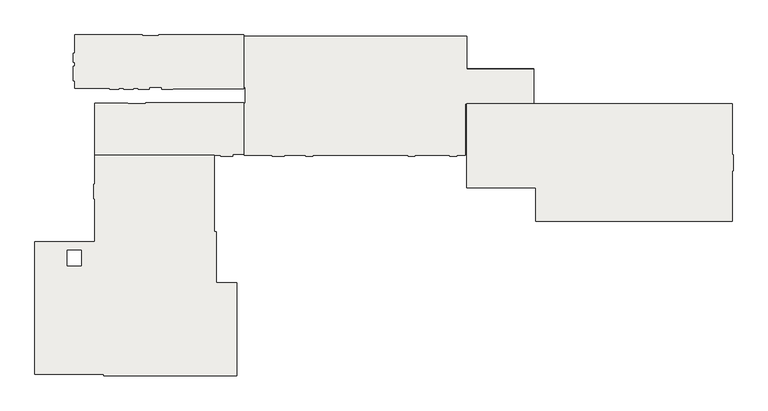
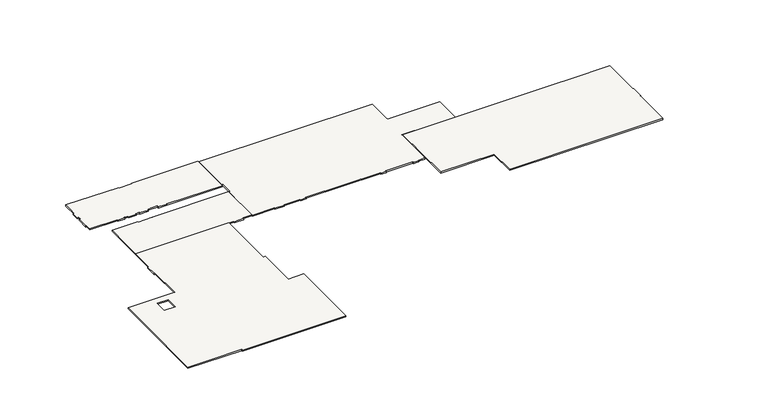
"""IFC4 building model written with IfcOpenShell, lengths in millimetres: slab geometry, Sol-02 - dalle béton 20cm + chape 6cm."""

from ifc_helpers import new_model, si_unit, frame, origin, place, context, project, spatial, polyline, outline, extrude, faceted_brep, source, transform, mapped, element, save


def slab_c3029f9a(model_context):
    return source(origin(), model_context, "Body", "SolidModel", [
        extrude(outline(polyline([(-36679.9987968, -10886.899999), (-15200.4988284, -10886.899999), (-12525.4988284, -10886.899999), (-4099.9988284, -10886.899999), (-4099.9988284, -19288.4656731), (-3949.9988284, -19288.4656731), (-3949.9988284, -21888.4656731), (-4099.9988284, -21888.4656731), (-4099.9988284, -30163.1349959), (-36366.0430891, -30163.1349959), (-36366.0430891, -24638.4656731), (-47679.998776, -24638.4656731), (-47679.998776, -10886.899999), (-36679.9987968, -10886.899999)])), frame((0.0, 0.0, -260.0), z_axis=(0.0, 0.0, 1.0), x_axis=(1.0, 0.0, 0.0)), (0.0, 0.0, 1.0), 260.0),
        extrude(outline(polyline([(-85489.873809, -49025.0173441), (-85489.873809, -55565.0173441), (-107328.1674613, -55565.0173441), (-107328.1674613, -55325.0173441), (-118643.5057462, -55325.0173441), (-118643.5057462, -33525.2180652), (-108816.1304765, -33525.2180652), (-108816.1304765, -26484.6903364), (-109016.1304765, -26484.6903364), (-109016.1304765, -24125.2903364), (-108816.1304765, -24125.2903364), (-108816.1304765, -19313.8903364), (-89219.3218006, -19313.8903364), (-89219.3218006, -31910.7903364), (-88819.3218006, -31910.7903364), (-88819.3218006, -40237.6903364), (-85489.873809, -40237.6903364), (-85489.873809, -49025.0173441)]), holes=[polyline([(-111021.8280797, -34911.0966115), (-113321.8280797, -34911.0966115), (-113321.8280797, -37514.1966115), (-111021.8280797, -37514.1966115), (-111021.8280797, -34911.0966115)])]), frame((0.0, 0.0, -260.0), z_axis=(0.0, 0.0, 1.0), x_axis=(1.0, 0.0, 0.0)), (0.0, 0.0, 1.0), 260.0),
        extrude(outline(polyline([(-84334.9987767, -8440.4850099), (-96024.9987767, -8440.4850099), (-96024.9987767, -8488.4850099), (-97824.9987767, -8488.4850099), (-97824.9987767, -8160.4850099), (-99886.6169684, -8160.4850099), (-99886.6169684, -8500.4850099), (-101686.6169684, -8500.4850099), (-101686.6169684, -8287.3850099), (-102505.8078725, -8287.3850099), (-102505.8078725, -8500.4850099), (-104015.8078725, -8500.4850099), (-104015.8078725, -8287.3850099), (-104834.9987767, -8287.3850099), (-104834.9987767, -8500.4850099), (-106344.9987767, -8500.4850099), (-106344.9987767, -8287.3850099), (-112106.6169684, -8287.3850099), (-112106.6169684, -7131.9), (-112306.6169684, -7131.9), (-112306.6169684, -4701.9), (-112106.6169684, -4701.9), (-112106.6169684, -4087.1425049), (-112306.6169684, -4087.1425049), (-112306.6169684, -2577.1425049), (-112106.6169684, -2577.1425049), (-112106.6169684, 438.5), (-101037.4987767, 438.5), (-101037.4987767, 262.0), (-98302.4987767, 262.0), (-98302.4987767, 438.5), (-84334.9987767, 438.5), (-84334.9987767, -8440.4850099)])), frame((0.0, 0.0, -260.0), z_axis=(0.0, 0.0, 1.0), x_axis=(1.0, 0.0, 0.0)), (0.0, 0.0, 1.0), 260.0),
        extrude(outline(polyline([(-108816.1304765, -10761.499999), (-103404.9987767, -10761.499999), (-103404.9987767, -10886.899999), (-100434.9987767, -10886.899999), (-100434.9987767, -10736.999999), (-84334.9987767, -10736.999999), (-84334.9987767, -19160.7903364), (-86139.873809, -19160.7903364), (-86139.873809, -19500.614977), (-88139.873809, -19500.614977), (-88139.873809, -19300.7903364), (-108816.1304765, -19300.7903364), (-108816.1304765, -10761.499999)])), frame((0.0, 0.0, -260.0), z_axis=(0.0, 0.0, 1.0), x_axis=(1.0, 0.0, 0.0)), (0.0, 0.0, 1.0), 260.0),
        faceted_brep([(-47692.743128, 240.0, -260.0), (-47692.743128, -5085.4850099, -260.0), (-36679.9987968, -5085.4850099, -260.0), (-36679.9987968, -10846.899999, -260.0), (-47919.998776, -10846.899999, -260.0), (-47919.998776, -19309.7903364, -260.0), (-49344.9987757, -19309.7903364, -260.0), (-49344.9987757, -19500.614977, -260.0), (-50494.998776, -19500.614977, -260.0), (-50494.998776, -19309.7903364, -260.0), (-56212.498776, -19309.7903364, -260.0), (-56212.498776, -19500.614977, -260.0), (-57344.9987763, -19500.614977, -260.0), (-57344.9987763, -19309.7903364, -260.0), (-72995.0004163, -19309.7903364, -260.0), (-72995.0004163, -19500.614977, -260.0), (-74145.0004166, -19500.614977, -260.0), (-74145.0004166, -19296.6903364, -260.0), (-77664.998776, -19296.6903364, -260.0), (-77664.998776, -19500.615019, -260.0), (-79664.998776, -19500.615019, -260.0), (-79664.998776, -19300.7903364, -260.0), (-84294.9987767, -19300.7903364, -260.0), (-84294.9987767, -10760.0, -260.0), (-84094.9987767, -10760.0, -260.0), (-84094.9987767, -8160.4850099, -260.0), (-84294.9987767, -8160.4850099, -260.0), (-84294.9987767, 240.0, -260.0), (-47692.743128, 240.0, 0.0), (-47692.743128, -5085.4850099, 0.0), (-47679.998776, -5085.4850099, 0.0), (-47679.998776, -5085.4850099, -200.0), (-36679.9987968, -5085.4850099, -200.0), (-36679.9987968, -5223.9850099, -200.0), (-36679.9987968, -5223.9850099, 0.0), (-36679.9987968, -10846.899999, 0.0), (-47919.998776, -10846.899999, 0.0), (-79664.998776, -19300.7903364, 0.0), (-84294.9987767, -19300.7903364, 0.0), (-84294.9987767, 240.0, 0.0), (-47919.998776, -19309.7903364, 0.0), (-84294.9987767, -10760.0, 0.0), (-84094.9987767, -10760.0, 0.0), (-84094.9987767, -8160.4850099, 0.0), (-84294.9987767, -8160.4850099, 0.0), (-47679.998776, -5223.9850099, -200.0), (-47679.998776, -5223.9850099, 0.0), (-49344.9987757, -19309.7903364, 0.0), (-49344.9987757, -19500.614977, 0.0), (-50494.998776, -19500.614977, 0.0), (-50494.998776, -19309.7903364, 0.0), (-56212.498776, -19309.7903364, 0.0), (-56212.498776, -19500.614977, 0.0), (-57344.9987763, -19500.614977, 0.0), (-57344.9987763, -19309.7903364, 0.0), (-72995.0004163, -19309.7903364, 0.0), (-72995.0004163, -19500.614977, 0.0), (-74145.0004166, -19500.614977, 0.0), (-74145.0004166, -19296.6903364, 0.0), (-77664.998776, -19296.6903364, 0.0), (-77664.998776, -19500.615019, 0.0), (-79664.998776, -19500.615019, 0.0)], [[[0, 1, 2, 3, 4, 5, 6, 7, 8, 9, 10, 11, 12, 13, 14, 15, 16, 17, 18, 19, 20, 21, 22, 23, 24, 25, 26, 27]], [[1, 0, 28, 29]], [[2, 1, 29, 30, 31, 32]], [[3, 2, 32, 33, 34, 35]], [[4, 3, 35, 36]], [[22, 21, 37, 38]], [[0, 27, 39, 28]], [[5, 4, 36, 40]], [[23, 22, 38, 41]], [[24, 23, 41, 42]], [[25, 24, 42, 43]], [[26, 25, 43, 44]], [[27, 26, 44, 39]], [[31, 45, 33, 32]], [[45, 46, 34, 33]], [[46, 45, 31, 30]], [[6, 5, 40, 47]], [[7, 6, 47, 48]], [[8, 7, 48, 49]], [[9, 8, 49, 50]], [[10, 9, 50, 51]], [[11, 10, 51, 52]], [[12, 11, 52, 53]], [[13, 12, 53, 54]], [[14, 13, 54, 55]], [[15, 14, 55, 56]], [[16, 15, 56, 57]], [[17, 16, 57, 58]], [[18, 17, 58, 59]], [[19, 18, 59, 60]], [[20, 19, 60, 61]], [[21, 20, 61, 37]], [[29, 28, 39, 44, 43, 42, 41, 38, 37, 61, 60, 59, 58, 57, 56, 55, 54, 53, 52, 51, 50, 49, 48, 47, 40, 36, 35, 34, 46, 30]]]),
    ])


if __name__ == "__main__":
    model = new_model("IFC4")
    model_context = context("Model", 3, world=origin())
    ifc_project = project(units=[si_unit("LENGTHUNIT", "METRE", prefix="MILLI")], contexts=[model_context])
    site = spatial("IfcSite", under=ifc_project)
    building = spatial("IfcBuilding", under=site)
    placement = place(None, origin())
    slab_shape = slab_c3029f9a(model_context)
    element("IfcSlab", 1, ObjectType="Sol-02 - dalle béton 20cm + chape 6cm", at=placement, inside=building, context=model_context, shape_type="MappedRepresentation", body=[
        mapped(slab_shape, transform((0.0, 0.0, 0.0), x_axis=(1.0, 0.0, 0.0), y_axis=(0.0, 1.0, 0.0), z_axis=(0.0, 0.0, 1.0))),
    ])
    save(model, "model.ifc")
